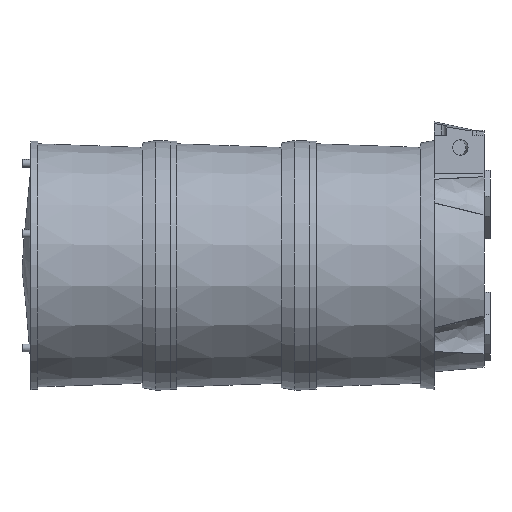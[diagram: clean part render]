
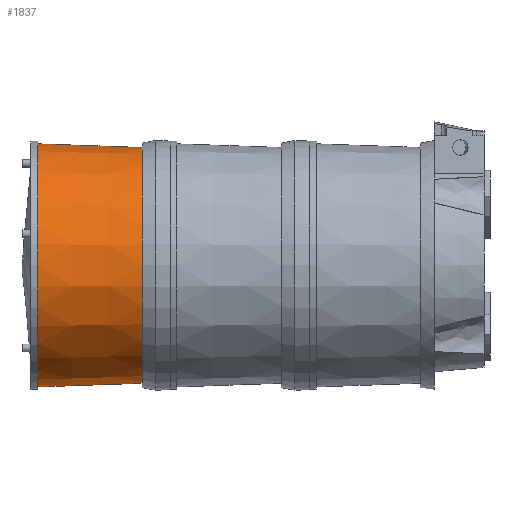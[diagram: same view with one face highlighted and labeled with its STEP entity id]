
A CAD part, left-side view. The second image highlights one B-rep face of the part: STEP entity #1837.
In plain terms, the highlighted conical face has half-angle 2 degrees and reference radius 196.5 mm.
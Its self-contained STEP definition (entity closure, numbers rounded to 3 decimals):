
#8 = AXIS2_PLACEMENT_3D ( 'NONE', #4362, #740, #4374 ) ;
#517 = CARTESIAN_POINT ( 'NONE',  ( 151.853, 751.83, 486.489 ) ) ;
#740 = DIRECTION ( 'NONE',  ( 0., 1., 0. ) ) ;
#749 = EDGE_LOOP ( 'NONE', ( #3262 ) ) ;
#934 = AXIS2_PLACEMENT_3D ( 'NONE', #3343, #3653, #2235 ) ;
#1056 = DIRECTION ( 'NONE',  ( 0., 1., 0. ) ) ;
#1493 = EDGE_LOOP ( 'NONE', ( #3599 ) ) ;
#1723 = EDGE_CURVE ( 'NONE', #2704, #2704, #4353, .T. ) ;
#1809 = CARTESIAN_POINT ( 'NONE',  ( 151.853, 925.83, 289.989 ) ) ;
#1837 = ADVANCED_FACE ( 'NONE', ( #4573, #2550 ), #3847, .T. ) ;
#2235 = DIRECTION ( 'NONE',  ( 0., 0., 1. ) ) ;
#2550 = FACE_BOUND ( 'NONE', #749, .T. ) ;
#2704 = VERTEX_POINT ( 'NONE', #3697 ) ;
#2839 = DIRECTION ( 'NONE',  ( 0., 0., 1. ) ) ;
#3262 = ORIENTED_EDGE ( 'NONE', *, *, #3762, .T. ) ;
#3343 = CARTESIAN_POINT ( 'NONE',  ( 151.853, 751.83, 289.989 ) ) ;
#3363 = AXIS2_PLACEMENT_3D ( 'NONE', #1809, #1056, #2839 ) ;
#3599 = ORIENTED_EDGE ( 'NONE', *, *, #1723, .F. ) ;
#3653 = DIRECTION ( 'NONE',  ( 0., 1., 0. ) ) ;
#3697 = CARTESIAN_POINT ( 'NONE',  ( 151.853, 925.83, 492.565 ) ) ;
#3762 = EDGE_CURVE ( 'NONE', #4448, #4448, #4339, .T. ) ;
#3847 = CONICAL_SURFACE ( 'NONE', #934, 196.5, 0.035 ) ;
#4339 = CIRCLE ( 'NONE', #8, 196.5 ) ;
#4353 = CIRCLE ( 'NONE', #3363, 202.576 ) ;
#4362 = CARTESIAN_POINT ( 'NONE',  ( 151.853, 751.83, 289.989 ) ) ;
#4374 = DIRECTION ( 'NONE',  ( 0., 0., 1. ) ) ;
#4448 = VERTEX_POINT ( 'NONE', #517 ) ;
#4573 = FACE_OUTER_BOUND ( 'NONE', #1493, .T. ) ;
